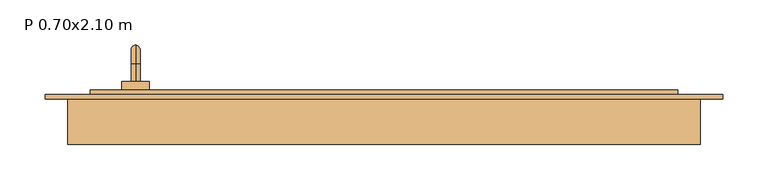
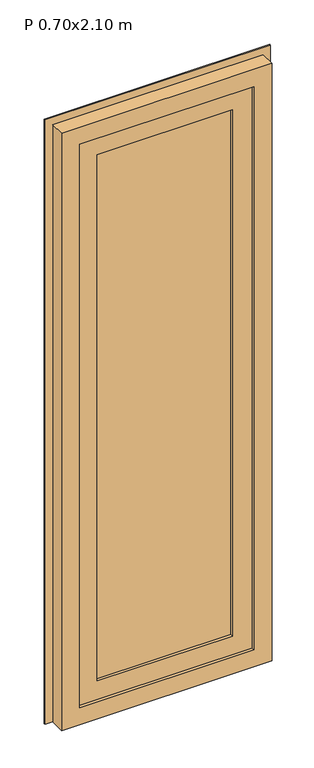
"""IFC4 building model written with IfcOpenShell, lengths in millimetres: door geometry, Balconera practicable, 1 hoja : P 0.70x2.10 m."""

import ifcopenshell
import ifcopenshell.guid

model = None  # the IFC model being written
_history = None  # IfcOwnerHistory: only IFC2X3 demands one
_inside = {}  # id of a spatial element -> (the spatial element, [elements in it])
_under = {}  # id of a project, library or spatial element -> (it, [spatial elements below it])
_declared = {}  # id of a project -> (the project, [libraries it declares])
_typed = {}  # id of a type object -> (the type object, [elements of that type])
_made_of = {}  # id of a material, layer set ... -> (it, [elements and type objects made of it])


def new_model(schema):
    """Start an empty IFC model of exactly this schema.

    Asked for "IFC4X3", IfcOpenShell would pick the latest addendum, in which some entities
    have other attributes; the version numbers below select the first issue.
    IFC2X3 requires an IfcOwnerHistory on every rooted entity: one is made here for all.
    """
    global model, _history
    if schema == "IFC4X3":
        model = ifcopenshell.file(schema_version=(4, 3, 0, 0))
    else:
        model = ifcopenshell.file(schema=schema)
    _inside.clear()
    _under.clear()
    _declared.clear()
    _typed.clear()
    _made_of.clear()
    _history = None
    if model.schema == "IFC2X3":
        org = make("IfcOrganization", Name="unknown")
        user = make(
            "IfcPersonAndOrganization",
            ThePerson=make("IfcPerson", FamilyName="unknown"),
            TheOrganization=org,
        )
        app = make(
            "IfcApplication",
            ApplicationDeveloper=org,
            Version="unknown",
            ApplicationFullName="unknown",
            ApplicationIdentifier="unknown",
        )
        _history = make(
            "IfcOwnerHistory",
            OwningUser=user,
            OwningApplication=app,
            ChangeAction="ADDED",
            CreationDate=0,
        )
    return model


def make(cls, **values):
    """One entity of the class cls with the attributes given. An attribute that is None is left unset."""
    return model.create_entity(
        cls, **{name: value for name, value in values.items() if value is not None}
    )


def rooted(cls, **values):
    """An entity with a GlobalId (a new one), such as an element, a storey or a relation."""
    return make(cls, GlobalId=ifcopenshell.guid.new(), OwnerHistory=_history, **values)


def si_unit(unit_type, name, prefix=None):
    """IfcSIUnit, for example si_unit("LENGTHUNIT", "METRE", prefix="MILLI")."""
    return make("IfcSIUnit", UnitType=unit_type, Prefix=prefix, Name=name)


def assignment(units):
    """IfcUnitAssignment: the units of a project."""
    return None if units is None else make("IfcUnitAssignment", Units=units)


def point(xyz):
    """IfcCartesianPoint."""
    return None if xyz is None else make("IfcCartesianPoint", Coordinates=xyz)


def direction(xyz):
    """IfcDirection."""
    return None if xyz is None else make("IfcDirection", DirectionRatios=xyz)


def frame(location, z_axis=None, x_axis=None):
    """IfcAxis2Placement3D, a coordinate frame: its origin and axes. An axis left out is left unset."""
    return make(
        "IfcAxis2Placement3D",
        Location=point(location),
        Axis=direction(z_axis),
        RefDirection=direction(x_axis),
    )


def origin():
    """The frame at (0, 0, 0) with its axes left unset."""
    return frame((0.0, 0.0, 0.0))


def place(relative_to, where):
    """IfcLocalPlacement: puts the frame where relative to a parent placement (None: the world)."""
    return make(
        "IfcLocalPlacement", PlacementRelTo=relative_to, RelativePlacement=where
    )


def context(
    kind, dimensions, precision=None, world=None, true_north=None, identifier=None
):
    """IfcGeometricRepresentationContext, for example the 3D "Model" context."""
    return make(
        "IfcGeometricRepresentationContext",
        ContextIdentifier=identifier,
        ContextType=kind,
        CoordinateSpaceDimension=dimensions,
        Precision=precision,
        WorldCoordinateSystem=world,
        TrueNorth=true_north,
    )


def project(units=None, contexts=None):
    """IfcProject with its units and contexts."""
    return rooted(
        "IfcProject",
        Name="project",
        RepresentationContexts=contexts,
        UnitsInContext=assignment(units),
    )


def spatial(cls, under=None, at=None, **own):
    """A site, building, storey or space (cls), placed at a placement, below another one or the project."""
    s = rooted(cls, ObjectPlacement=at, **own)
    if under is not None:
        _under.setdefault(under.id(), (under, []))[1].append(s)
    return s


def polyline(points):
    """IfcPolyline through the points."""
    return make("IfcPolyline", Points=[point(p) for p in points])


def circle_curve(where, radius):
    """IfcCircle in the frame where."""
    return make("IfcCircle", Position=where, Radius=radius)


def ellipse_curve(where, semi_axis1, semi_axis2):
    """IfcEllipse in the frame where."""
    return make(
        "IfcEllipse", Position=where, SemiAxis1=semi_axis1, SemiAxis2=semi_axis2
    )


def trimmed(basis, trim1, trim2, sense, master):
    """IfcTrimmedCurve: the piece of a basis curve between two trims."""
    return make(
        "IfcTrimmedCurve",
        BasisCurve=basis,
        Trim1=trim1,
        Trim2=trim2,
        SenseAgreement=sense,
        MasterRepresentation=master,
    )


def outline(outer, holes=None, kind="AREA"):
    """IfcArbitraryClosedProfileDef: a profile drawn as a closed curve; with holes, ...WithVoids."""
    if holes is None:
        return make("IfcArbitraryClosedProfileDef", ProfileType=kind, OuterCurve=outer)
    return make(
        "IfcArbitraryProfileDefWithVoids",
        ProfileType=kind,
        OuterCurve=outer,
        InnerCurves=holes,
    )


def extrude(swept, where, along, depth):
    """IfcExtrudedAreaSolid: the profile swept, set in the frame where, extruded along a direction by depth."""
    return make(
        "IfcExtrudedAreaSolid",
        SweptArea=swept,
        Position=where,
        ExtrudedDirection=direction(along),
        Depth=depth,
    )


def faces_of(points, faces, orient=None, outer=None):
    """IfcFace entities. A face is a list of loops; a loop is a list of indices into points, from 0.

    orient and outer hold one flag for each loop. By default every Orientation is true, the
    first loop of a face is its IfcFaceOuterBound and the others are IfcFaceBound.
    """
    made = []
    for i, loops in enumerate(faces):
        bounds = []
        for j, loop in enumerate(loops):
            is_outer = j == 0 if outer is None else outer[i][j]
            bounds.append(
                make(
                    "IfcFaceOuterBound" if is_outer else "IfcFaceBound",
                    Bound=make("IfcPolyLoop", Polygon=[points[k] for k in loop]),
                    Orientation=True if orient is None else orient[i][j],
                )
            )
        made.append(make("IfcFace", Bounds=bounds))
    return made


def faceted_brep(points, faces, orient=None, outer=None, voids=None):
    """IfcFacetedBrep: a solid bounded by flat faces; with voids (closed shells), ...WithVoids."""
    shared = [point(p) for p in points]
    hull = make("IfcClosedShell", CfsFaces=faces_of(shared, faces, orient, outer))
    if voids is None:
        return make("IfcFacetedBrep", Outer=hull)
    return make(
        "IfcFacetedBrepWithVoids",
        Outer=hull,
        Voids=[
            make(cls, CfsFaces=faces_of(shared, fs, o, b)) for cls, fs, o, b in voids
        ],
    )


def shape(context_of_items, identifier, shape_type, items):
    """IfcShapeRepresentation: the items that make up one representation, for example the "Body"."""
    return make(
        "IfcShapeRepresentation",
        ContextOfItems=context_of_items,
        RepresentationIdentifier=identifier,
        RepresentationType=shape_type,
        Items=items,
    )


def source(mapping_origin, context_of_items, identifier, shape_type, items):
    """IfcRepresentationMap: a shape defined once, which mapped items show again and again."""
    return make(
        "IfcRepresentationMap",
        MappingOrigin=mapping_origin,
        MappedRepresentation=shape(context_of_items, identifier, shape_type, items),
    )


def transform(
    local_origin,
    x_axis=None,
    y_axis=None,
    z_axis=None,
    scale=None,
    scale2=None,
    scale3=None,
    uniform=True,
):
    """IfcCartesianTransformationOperator3D, or its non-uniform kind. x_axis, y_axis, z_axis: its Axis1, 2, 3."""
    if uniform:
        return make(
            "IfcCartesianTransformationOperator3D",
            Axis1=direction(x_axis),
            Axis2=direction(y_axis),
            LocalOrigin=point(local_origin),
            Scale=scale,
            Axis3=direction(z_axis),
        )
    return make(
        "IfcCartesianTransformationOperator3DnonUniform",
        Axis1=direction(x_axis),
        Axis2=direction(y_axis),
        LocalOrigin=point(local_origin),
        Scale=scale,
        Axis3=direction(z_axis),
        Scale2=scale2,
        Scale3=scale3,
    )


def mapped(mapping_source, mapping_target):
    """IfcMappedItem: shows the shape of a source again, moved by a transform."""
    return make(
        "IfcMappedItem", MappingSource=mapping_source, MappingTarget=mapping_target
    )


def made_of(thing, what):
    """Note that an element or type object is made of a material, layer set ...; save() writes the relation."""
    if what is not None:
        _made_of.setdefault(what.id(), (what, []))[1].append(thing)
    return thing


def element(
    cls,
    number,
    at=None,
    inside=None,
    cuts=None,
    type_object=None,
    material=None,
    context=None,
    identifier="Body",
    shape_type=None,
    held_by="IfcProductDefinitionShape",
    body=None,
    shapes=None,
    **own,
):
    """One element of the class cls, such as IfcWall. Its Tag is "e" and its number.

    at: its placement. inside: the storey or other place that contains it. cuts: it is an
    opening in that element (IfcRelVoidsElement). A single representation is given by context,
    identifier, shape_type and body (its items); several are given by shapes. held_by: the class
    of the entity that holds the representations. save() writes the other relations.
    """
    e = rooted(cls, Tag="e%d" % number, ObjectPlacement=at, **own)
    if body is not None:
        shapes = [shape(context, identifier, shape_type, body)]
    if shapes is not None:
        e.Representation = make(held_by, Representations=shapes)
    if inside is not None:
        _inside.setdefault(inside.id(), (inside, []))[1].append(e)
    if cuts is not None:
        rooted(
            "IfcRelVoidsElement", RelatingBuildingElement=cuts, RelatedOpeningElement=e
        )
    if type_object is not None:
        _typed.setdefault(type_object.id(), (type_object, []))[1].append(e)
    return made_of(e, material)


def aggregate(whole, parts):
    """IfcRelAggregates: a whole, such as a stair, and the parts it consists of."""
    return rooted("IfcRelAggregates", RelatingObject=whole, RelatedObjects=parts)


def save(model, path):
    """Write the relations noted so far, then the file.

    IfcRelAggregates (storeys below a building ...), IfcRelContainedInSpatialStructure (elements
    in a storey), IfcRelDefinesByType, IfcRelAssociatesMaterial and IfcRelDeclares: one each for
    every whole, place, type object, material and project.
    """
    for whole, parts in _under.values():
        aggregate(whole, parts)
    for where, things in _inside.values():
        rooted(
            "IfcRelContainedInSpatialStructure",
            RelatedElements=things,
            RelatingStructure=where,
        )
    for kind, things in _typed.values():
        rooted("IfcRelDefinesByType", RelatedObjects=things, RelatingType=kind)
    for what, things in _made_of.values():
        rooted("IfcRelAssociatesMaterial", RelatedObjects=things, RelatingMaterial=what)
    for by, libraries in _declared.values():
        rooted("IfcRelDeclares", RelatingContext=by, RelatedDefinitions=libraries)
    model.write(path)


def plane_surface(at):
    """IfcPlane: the flat surface through the origin of the frame at, square to its z axis."""
    return make("IfcPlane", Position=at)


def cylinder_surface(at, radius):
    """IfcCylindricalSurface: all points at the distance radius from the z axis of the frame at."""
    return make("IfcCylindricalSurface", Position=at, Radius=radius)


def revolved_surface(curve, axis_point, axis_direction):
    """IfcSurfaceOfRevolution: the curve turned about the line through axis_point along axis_direction."""
    return make(
        "IfcSurfaceOfRevolution",
        SweptCurve=make("IfcArbitraryOpenProfileDef", ProfileType="CURVE", Curve=curve),
        AxisPosition=make("IfcAxis1Placement", Location=point(axis_point), Axis=direction(axis_direction)),
    )


def advanced_brep(points, edges, surfaces, faces):
    """IfcAdvancedBrep: a solid bounded by faces that lie on surfaces and meet in shared edges.

    An edge is (start, end): straight between two places in points (the first is 0);
    or (start, end, curve); or (start, end, curve, False) where it runs against its curve.
    A face is (place in surfaces, loops), or (place, loops, False) where it looks against
    its surface's normal. A loop lists edges by number (the first is 1), with a minus sign
    where the edge is run from its end to its start. The first loop is the outer one.
    """
    corners = [point(p) for p in points]
    vertices = [make("IfcVertexPoint", VertexGeometry=c) for c in corners]
    made = []
    for start, end, *more in edges:
        made.append(
            make(
                "IfcEdgeCurve",
                EdgeStart=vertices[start],
                EdgeEnd=vertices[end],
                EdgeGeometry=more[0] if more else make("IfcPolyline", Points=[corners[start], corners[end]]),
                SameSense=more[1] if len(more) > 1 else True,
            )
        )
    hull = []
    for where, loops, *sense in faces:
        bounds = []
        for j, loop in enumerate(loops):
            ring = [make("IfcOrientedEdge", EdgeElement=made[abs(k) - 1], Orientation=k > 0) for k in loop]
            bounds.append(
                make(
                    "IfcFaceOuterBound" if j == 0 else "IfcFaceBound",
                    Bound=make("IfcEdgeLoop", EdgeList=ring),
                    Orientation=True,
                )
            )
        hull.append(make("IfcAdvancedFace", Bounds=bounds, FaceSurface=surfaces[where], SameSense=sense[0] if sense else True))
    return make("IfcAdvancedBrep", Outer=make("IfcClosedShell", CfsFaces=hull))


def p_0_70x2_10_m_c1ecacfd(model_context):
    return source(origin(), model_context, "Body", "SolidModel", [
        advanced_brep(
        [(-275.0, 95.0, 905.0), (-275.0, 114.0, 905.0), (-275.0, 114.0, 895.0), (-275.0, 95.0, 895.0), (-275.0, 135.0, 884.0), (-275.0, 125.0, 884.0), (-275.0, 135.0, 805.0), (-275.0, 125.0, 805.0), (-290.0, 95.0, 930.0), (-260.0, 95.0, 930.0), (-260.0, 95.0, 870.0), (-290.0, 95.0, 870.0), (-290.0, 85.0, 930.0), (-290.0, 85.0, 870.0), (-260.0, 85.0, 870.0), (-260.0, 85.0, 930.0)],
        [
            (0, 1),
            (1, 2, circle_curve(frame((-275.0, 114.0, 900.0), z_axis=(0.0, -1.0, 0.0), x_axis=(0.0, 0.0, -1.0)), 5.0)),
            (2, 3),
            (3, 0, circle_curve(frame((-275.0, 95.0, 900.0), z_axis=(0.0, 1.0, 0.0), x_axis=(0.0, 0.0, -1.0)), 5.0)),
            (0, 3, circle_curve(frame((-275.0, 95.0, 900.0), z_axis=(0.0, 1.0, 0.0), x_axis=(0.0, 0.0, -1.0)), 5.0)),
            (2, 1, circle_curve(frame((-275.0, 114.0, 900.0), z_axis=(0.0, -1.0, 0.0), x_axis=(0.0, 0.0, -1.0)), 5.0)),
            (1, 4, circle_curve(frame((-275.0, 114.0, 884.0), z_axis=(-1.0, 0.0, 0.0), x_axis=(0.0, 0.0, 1.0)), 21.0)),
            (4, 5, circle_curve(frame((-275.0, 130.0, 884.0), z_axis=(0.0, 0.0, 1.0), x_axis=(0.0, -1.0, 0.0)), 5.0)),
            (5, 2, circle_curve(frame((-275.0, 114.0, 884.0), z_axis=(1.0, 0.0, 0.0), x_axis=(0.0, 0.0, 1.0)), 11.0)),
            (5, 4, circle_curve(frame((-275.0, 130.0, 884.0), z_axis=(0.0, 0.0, 1.0), x_axis=(0.0, -1.0, 0.0)), 5.0)),
            (6, 7, circle_curve(frame((-275.0, 130.0, 805.0), z_axis=(0.0, 0.0, -1.0), x_axis=(0.0, -1.0, 0.0)), 5.0)),
            (7, 6, circle_curve(frame((-275.0, 130.0, 805.0), z_axis=(0.0, 0.0, -1.0), x_axis=(0.0, -1.0, 0.0)), 5.0)),
            (4, 6),
            (7, 5),
            (8, 9),
            (9, 10),
            (10, 11),
            (11, 8),
            (12, 13),
            (13, 14),
            (14, 15),
            (15, 12),
            (8, 12),
            (15, 9),
            (14, 10),
            (13, 11),
        ],
        [
            cylinder_surface(frame((-275.0, 95.0, 900.0), z_axis=(0.0, -1.0, 0.0), x_axis=(0.0, 0.0, -1.0)), 5.0),
            revolved_surface(trimmed(ellipse_curve(frame((-275.0, 114.0, 900.0), z_axis=(0.0, -1.0, 0.0), x_axis=(0.0, 0.0, -1.0)), 5.0, 5.0), [point((-275.0, 114.0, 905.0))], [point((-275.0, 114.0, 895.0))], True, "CARTESIAN"), (-275.0, 114.0, 884.0), (-1.0, 0.0, 0.0)),
            revolved_surface(trimmed(ellipse_curve(frame((-275.0, 114.0, 900.0), z_axis=(0.0, -1.0, 0.0), x_axis=(0.0, 0.0, -1.0)), 5.0, 5.0), [point((-275.0, 114.0, 895.0))], [point((-275.0, 114.0, 905.0))], True, "CARTESIAN"), (-275.0, 114.0, 884.0), (-1.0, 0.0, 0.0)),
            plane_surface(frame((-275.0, 130.0, 805.0), z_axis=(0.0, 0.0, -1.0), x_axis=(-1.0, 0.0, 0.0))),
            cylinder_surface(frame((-275.0, 130.0, 884.0), z_axis=(0.0, 0.0, 1.0), x_axis=(0.0, -1.0, 0.0)), 5.0),
            plane_surface(frame((-260.0, 95.0, 930.0), z_axis=(0.0, 1.0, 0.0), x_axis=(1.0, 0.0, 0.0))),
            plane_surface(frame((-260.0, 85.0, 930.0), z_axis=(0.0, -1.0, 0.0), x_axis=(-1.0, 0.0, 0.0))),
            plane_surface(frame((-290.0, 95.0, 930.0), z_axis=(0.0, 0.0, 1.0), x_axis=(0.0, -1.0, 0.0))),
            plane_surface(frame((-260.0, 95.0, 930.0), z_axis=(1.0, 0.0, 0.0), x_axis=(0.0, -1.0, 0.0))),
            plane_surface(frame((-260.0, 95.0, 870.0), z_axis=(0.0, 0.0, -1.0), x_axis=(0.0, -1.0, 0.0))),
            plane_surface(frame((-290.0, 95.0, 870.0), z_axis=(-1.0, 0.0, 0.0), x_axis=(0.0, -1.0, 0.0))),
        ],
        [
            (0, [[1, 2, 3, 4]]),
            (0, [[-1, 5, -3, 6]]),
            (1, [[-2, 7, 8, 9]]),
            (2, [[-6, -9, 10, -7]]),
            (3, [[11, 12]]),
            (4, [[-8, 13, -12, 14]]),
            (4, [[-10, -14, -11, -13]]),
            (5, [[15, 16, 17, 18], [-4, -5]]),
            (6, [[19, 20, 21, 22]]),
            (7, [[-15, 23, -22, 24]]),
            (8, [[-16, -24, -21, 25]]),
            (9, [[-17, -25, -20, 26]]),
            (10, [[-18, -26, -19, -23]]),
        ],
    ),
        extrude(outline(polyline([(240.0, 59.0), (240.0, 45.0), (-240.0, 45.0), (-240.0, 59.0), (240.0, 59.0)])), frame((0.0, 0.0, 110.0), z_axis=(0.0, 0.0, 1.0), x_axis=(1.0, 0.0, 0.0)), (0.0, 0.0, 1.0), 1880.0),
        extrude(outline(polyline([(2000.0, -250.0), (100.0, -250.0), (100.0, 250.0), (2000.0, 250.0), (2000.0, -250.0)]), holes=[polyline([(1975.0, 225.0), (125.0, 225.0), (125.0, -225.0), (1975.0, -225.0), (1975.0, 225.0)])]), frame((0.0, 59.0, 0.0), z_axis=(0.0, 1.0, 0.0), x_axis=(0.0, 0.0, 1.0)), (0.0, 0.0, 1.0), 26.0),
        faceted_brep([(-325.0, 85.0, 2075.0), (-325.0, 75.0, 2075.0), (325.0, 75.0, 2075.0), (325.0, 85.0, 2075.0), (-250.0, 45.0, 2000.0), (-250.0, 85.0, 2000.0), (250.0, 85.0, 2000.0), (250.0, 45.0, 2000.0), (-225.0, 35.0, 1975.0), (-225.0, 45.0, 1975.0), (225.0, 45.0, 1975.0), (225.0, 35.0, 1975.0), (-300.0, 75.0, 2050.0), (-300.0, 35.0, 2050.0), (300.0, 35.0, 2050.0), (300.0, 75.0, 2050.0), (325.0, 75.0, 25.0), (325.0, 85.0, 25.0), (250.0, 85.0, 100.0), (250.0, 45.0, 100.0), (225.0, 45.0, 125.0), (225.0, 35.0, 125.0), (300.0, 35.0, 50.0), (300.0, 75.0, 50.0), (-325.0, 75.0, 25.0), (-325.0, 85.0, 25.0), (-250.0, 85.0, 100.0), (-250.0, 45.0, 100.0), (-225.0, 45.0, 125.0), (-225.0, 35.0, 125.0), (-300.0, 35.0, 50.0), (-300.0, 75.0, 50.0)], [[[0, 1, 2, 3]], [[4, 5, 6, 7]], [[8, 9, 10, 11]], [[12, 13, 14, 15]], [[3, 2, 16, 17]], [[7, 6, 18, 19]], [[11, 10, 20, 21]], [[15, 14, 22, 23]], [[17, 16, 24, 25]], [[19, 18, 26, 27]], [[21, 20, 28, 29]], [[23, 22, 30, 31]], [[25, 24, 1, 0]], [[3, 17, 25, 0], [5, 26, 18, 6]], [[27, 26, 5, 4]], [[7, 19, 27, 4], [9, 28, 20, 10]], [[29, 28, 9, 8]], [[13, 30, 22, 14], [11, 21, 29, 8]], [[31, 30, 13, 12]], [[1, 24, 16, 2], [15, 23, 31, 12]]]),
        faceted_brep([(-350.0, 75.0, 2100.0), (-350.0, 25.0, 2100.0), (350.0, 25.0, 2100.0), (350.0, 75.0, 2100.0), (-315.0, 35.0, 2065.0), (-315.0, 75.0, 2065.0), (315.0, 75.0, 2065.0), (315.0, 35.0, 2065.0), (-290.0, 25.0, 2040.0), (-290.0, 35.0, 2040.0), (290.0, 35.0, 2040.0), (290.0, 25.0, 2040.0), (350.0, 25.0, 0.0), (350.0, 75.0, 0.0), (315.0, 75.0, 35.0), (315.0, 35.0, 35.0), (290.0, 35.0, 60.0), (290.0, 25.0, 60.0), (-350.0, 25.0, 0.0), (-350.0, 75.0, 0.0), (-315.0, 75.0, 35.0), (-315.0, 35.0, 35.0), (-290.0, 35.0, 60.0), (-290.0, 25.0, 60.0)], [[[0, 1, 2, 3]], [[4, 5, 6, 7]], [[8, 9, 10, 11]], [[3, 2, 12, 13]], [[7, 6, 14, 15]], [[11, 10, 16, 17]], [[13, 12, 18, 19]], [[15, 14, 20, 21]], [[17, 16, 22, 23]], [[19, 18, 1, 0]], [[3, 13, 19, 0], [5, 20, 14, 6]], [[21, 20, 5, 4]], [[7, 15, 21, 4], [9, 22, 16, 10]], [[23, 22, 9, 8]], [[1, 18, 12, 2], [11, 17, 23, 8]]]),
        extrude(outline(polyline([(0.0, -375.0), (0.0, -340.0), (2090.0, -340.0), (2090.0, 340.0), (0.0, 340.0), (0.0, 375.0), (2125.0, 375.0), (2125.0, -375.0), (0.0, -375.0)])), frame((0.0, 75.0, 0.0), z_axis=(0.0, 1.0, 0.0), x_axis=(0.0, 0.0, 1.0)), (0.0, 0.0, 1.0), 5.0),
    ])


if __name__ == "__main__":
    model = new_model("IFC4")
    model_context = context("Model", 3, world=origin())
    ifc_project = project(units=[si_unit("LENGTHUNIT", "METRE", prefix="MILLI")], contexts=[model_context])
    site = spatial("IfcSite", under=ifc_project)
    building = spatial("IfcBuilding", under=site)
    placement = place(None, origin())
    p_0_70x2_10_m_shape = p_0_70x2_10_m_c1ecacfd(model_context)
    element("IfcDoor", 1, ObjectType="Balconera practicable, 1 hoja : P 0.70x2.10 m", at=placement, inside=building, context=model_context, shape_type="MappedRepresentation", body=[
        mapped(p_0_70x2_10_m_shape, transform((0.0, 0.0, 0.0), x_axis=(1.0, 0.0, 0.0), y_axis=(0.0, 1.0, 0.0), z_axis=(0.0, 0.0, 1.0))),
    ])
    save(model, "model.ifc")
